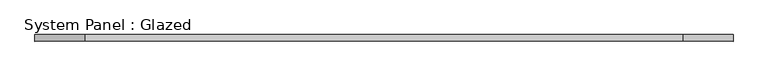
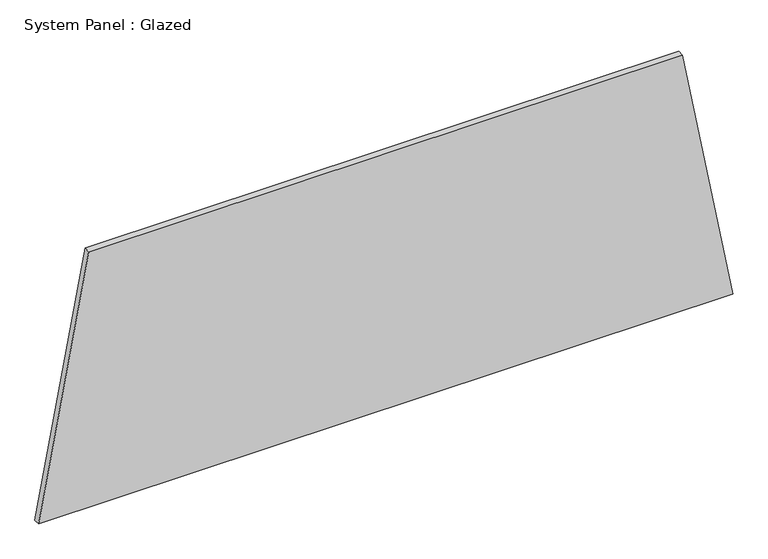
"""IFC4 building model written with IfcOpenShell, lengths in millimetres: plate geometry, System Panel : Glazed."""

from ifc_helpers import new_model, si_unit, frame, origin, place, context, project, spatial, polyline, outline, extrude, source, transform, mapped, element, save


def system_panel_glazed_9f142460(model_context):
    return source(origin(), model_context, "Body", "SweptSolid", [
        extrude(outline(polyline([(0.0, -1346.640227), (0.0, 1346.640227), (1048.958325, 1152.3500512), (1048.958325, -1152.3500512), (0.0, -1346.640227)])), frame((0.0, -44.45, 0.0), z_axis=(0.0, 1.0, 0.0), x_axis=(0.0, 0.0, 1.0)), (0.0, 0.0, 1.0), 25.4),
    ])


if __name__ == "__main__":
    model = new_model("IFC4")
    model_context = context("Model", 3, world=origin())
    ifc_project = project(units=[si_unit("LENGTHUNIT", "METRE", prefix="MILLI")], contexts=[model_context])
    site = spatial("IfcSite", under=ifc_project)
    building = spatial("IfcBuilding", under=site)
    placement = place(None, origin())
    system_panel_glazed_shape = system_panel_glazed_9f142460(model_context)
    element("IfcPlate", 1, ObjectType="System Panel : Glazed", at=placement, inside=building, context=model_context, shape_type="MappedRepresentation", body=[
        mapped(system_panel_glazed_shape, transform((0.0, 0.0, 0.0), x_axis=(1.0, 0.0, 0.0), y_axis=(0.0, 1.0, 0.0), z_axis=(0.0, 0.0, 1.0))),
    ])
    save(model, "model.ifc")
